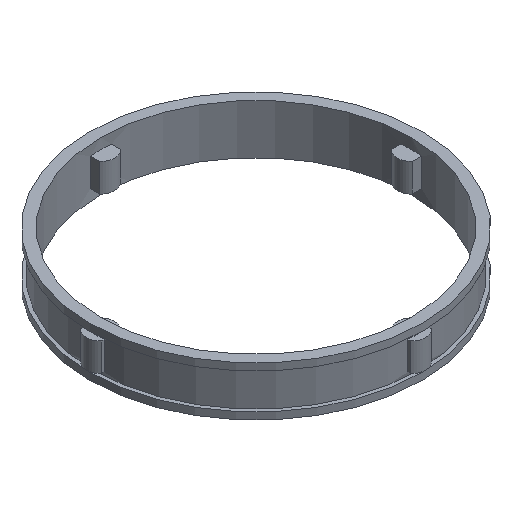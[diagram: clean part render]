
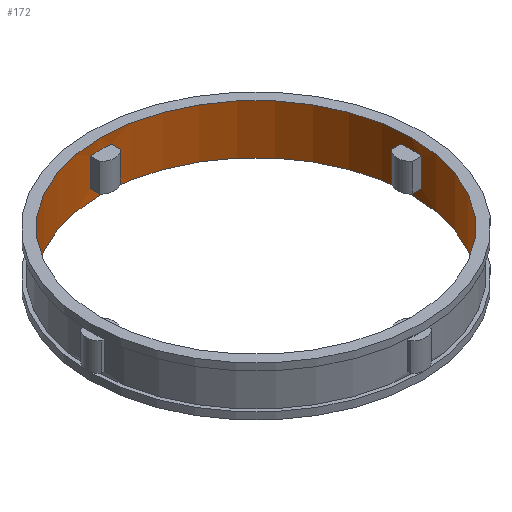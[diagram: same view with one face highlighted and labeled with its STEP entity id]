
A CAD part, isometric view. The second image highlights one B-rep face of the part: STEP entity #172.
In plain terms, the highlighted cylindrical face has radius 22 mm (diameter 44 mm), a full revolution.
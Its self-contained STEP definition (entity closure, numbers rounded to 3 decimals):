
#172=ADVANCED_FACE('',(#365,#366,#367,#368,#369,#370),#220,.F.);
#220=CYLINDRICAL_SURFACE('',#893,22.);
#239=LINE('',#1247,#303);
#240=LINE('',#1251,#304);
#241=LINE('',#1255,#305);
#242=LINE('',#1259,#306);
#243=LINE('',#1263,#307);
#244=LINE('',#1267,#308);
#245=LINE('',#1268,#309);
#246=LINE('',#1273,#310);
#303=VECTOR('',#998,1.);
#304=VECTOR('',#1001,1.);
#305=VECTOR('',#1004,1.);
#306=VECTOR('',#1007,1.);
#307=VECTOR('',#1010,1.);
#308=VECTOR('',#1013,1.);
#309=VECTOR('',#1014,1.);
#310=VECTOR('',#1017,1.);
#365=FACE_BOUND('',#389,.T.);
#366=FACE_BOUND('',#390,.T.);
#367=FACE_BOUND('',#391,.T.);
#368=FACE_BOUND('',#392,.T.);
#369=FACE_BOUND('',#393,.T.);
#370=FACE_BOUND('',#394,.T.);
#389=EDGE_LOOP('',(#465));
#390=EDGE_LOOP('',(#466));
#391=EDGE_LOOP('',(#467,#468,#469,#470));
#392=EDGE_LOOP('',(#471,#472,#473,#474));
#393=EDGE_LOOP('',(#475,#476,#477,#478));
#394=EDGE_LOOP('',(#479,#480,#481,#482));
#465=ORIENTED_EDGE('',*,*,#745,.F.);
#466=ORIENTED_EDGE('',*,*,#746,.T.);
#467=ORIENTED_EDGE('',*,*,#747,.F.);
#468=ORIENTED_EDGE('',*,*,#748,.T.);
#469=ORIENTED_EDGE('',*,*,#749,.T.);
#470=ORIENTED_EDGE('',*,*,#750,.T.);
#471=ORIENTED_EDGE('',*,*,#751,.F.);
#472=ORIENTED_EDGE('',*,*,#752,.T.);
#473=ORIENTED_EDGE('',*,*,#753,.T.);
#474=ORIENTED_EDGE('',*,*,#754,.T.);
#475=ORIENTED_EDGE('',*,*,#755,.F.);
#476=ORIENTED_EDGE('',*,*,#756,.T.);
#477=ORIENTED_EDGE('',*,*,#757,.T.);
#478=ORIENTED_EDGE('',*,*,#758,.T.);
#479=ORIENTED_EDGE('',*,*,#759,.F.);
#480=ORIENTED_EDGE('',*,*,#760,.T.);
#481=ORIENTED_EDGE('',*,*,#761,.F.);
#482=ORIENTED_EDGE('',*,*,#762,.F.);
#673=VERTEX_POINT('',#1241);
#674=VERTEX_POINT('',#1243);
#675=VERTEX_POINT('',#1245);
#676=VERTEX_POINT('',#1246);
#677=VERTEX_POINT('',#1248);
#678=VERTEX_POINT('',#1250);
#679=VERTEX_POINT('',#1253);
#680=VERTEX_POINT('',#1254);
#681=VERTEX_POINT('',#1256);
#682=VERTEX_POINT('',#1258);
#683=VERTEX_POINT('',#1261);
#684=VERTEX_POINT('',#1262);
#685=VERTEX_POINT('',#1264);
#686=VERTEX_POINT('',#1266);
#687=VERTEX_POINT('',#1269);
#688=VERTEX_POINT('',#1270);
#689=VERTEX_POINT('',#1272);
#690=VERTEX_POINT('',#1274);
#745=EDGE_CURVE('',#673,#673,#841,.T.);
#746=EDGE_CURVE('',#674,#674,#842,.T.);
#747=EDGE_CURVE('',#675,#676,#843,.T.);
#748=EDGE_CURVE('',#675,#677,#239,.T.);
#749=EDGE_CURVE('',#677,#678,#844,.T.);
#750=EDGE_CURVE('',#678,#676,#240,.T.);
#751=EDGE_CURVE('',#679,#680,#845,.T.);
#752=EDGE_CURVE('',#679,#681,#241,.T.);
#753=EDGE_CURVE('',#681,#682,#846,.T.);
#754=EDGE_CURVE('',#682,#680,#242,.T.);
#755=EDGE_CURVE('',#683,#684,#847,.T.);
#756=EDGE_CURVE('',#683,#685,#243,.T.);
#757=EDGE_CURVE('',#685,#686,#848,.T.);
#758=EDGE_CURVE('',#686,#684,#244,.T.);
#759=EDGE_CURVE('',#687,#688,#245,.T.);
#760=EDGE_CURVE('',#687,#689,#849,.T.);
#761=EDGE_CURVE('',#690,#689,#246,.T.);
#762=EDGE_CURVE('',#688,#690,#850,.T.);
#841=CIRCLE('',#883,22.);
#842=CIRCLE('',#884,22.);
#843=CIRCLE('',#885,22.);
#844=CIRCLE('',#886,22.);
#845=CIRCLE('',#887,22.);
#846=CIRCLE('',#888,22.);
#847=CIRCLE('',#889,22.);
#848=CIRCLE('',#890,22.);
#849=CIRCLE('',#891,22.);
#850=CIRCLE('',#892,22.);
#883=AXIS2_PLACEMENT_3D('',#1240,#992,#993);
#884=AXIS2_PLACEMENT_3D('',#1242,#994,#995);
#885=AXIS2_PLACEMENT_3D('',#1244,#996,#997);
#886=AXIS2_PLACEMENT_3D('',#1249,#999,#1000);
#887=AXIS2_PLACEMENT_3D('',#1252,#1002,#1003);
#888=AXIS2_PLACEMENT_3D('',#1257,#1005,#1006);
#889=AXIS2_PLACEMENT_3D('',#1260,#1008,#1009);
#890=AXIS2_PLACEMENT_3D('',#1265,#1011,#1012);
#891=AXIS2_PLACEMENT_3D('',#1271,#1015,#1016);
#892=AXIS2_PLACEMENT_3D('',#1275,#1018,#1019);
#893=AXIS2_PLACEMENT_3D('',#1276,#1020,#1021);
#992=DIRECTION('',(0.,0.,1.));
#993=DIRECTION('',(1.,0.,0.));
#994=DIRECTION('',(0.,0.,1.));
#995=DIRECTION('',(1.,0.,0.));
#996=DIRECTION('',(0.,0.,1.));
#997=DIRECTION('',(1.,0.,0.));
#998=DIRECTION('',(0.,0.,-1.));
#999=DIRECTION('',(0.,0.,1.));
#1000=DIRECTION('',(1.,0.,0.));
#1001=DIRECTION('',(0.,0.,1.));
#1002=DIRECTION('',(0.,0.,1.));
#1003=DIRECTION('',(1.,0.,0.));
#1004=DIRECTION('',(0.,0.,-1.));
#1005=DIRECTION('',(0.,0.,1.));
#1006=DIRECTION('',(1.,0.,0.));
#1007=DIRECTION('',(0.,0.,1.));
#1008=DIRECTION('',(0.,0.,1.));
#1009=DIRECTION('',(1.,0.,0.));
#1010=DIRECTION('',(0.,0.,-1.));
#1011=DIRECTION('',(0.,0.,1.));
#1012=DIRECTION('',(1.,0.,0.));
#1013=DIRECTION('',(0.,0.,1.));
#1014=DIRECTION('',(0.,0.,-1.));
#1015=DIRECTION('',(0.,0.,-1.));
#1016=DIRECTION('',(-1.,0.,0.));
#1017=DIRECTION('',(0.,0.,1.));
#1018=DIRECTION('',(0.,0.,-1.));
#1019=DIRECTION('',(-1.,0.,0.));
#1020=DIRECTION('',(0.,0.,-1.));
#1021=DIRECTION('',(-1.,0.,0.));
#1240=CARTESIAN_POINT('',(0.,0.,0.));
#1241=CARTESIAN_POINT('',(22.,0.,0.));
#1242=CARTESIAN_POINT('',(0.,0.,7.));
#1243=CARTESIAN_POINT('',(22.,0.,7.));
#1244=CARTESIAN_POINT('',(0.,0.,5.5));
#1245=CARTESIAN_POINT('',(21.951,-1.471,5.5));
#1246=CARTESIAN_POINT('',(21.951,1.471,5.5));
#1247=CARTESIAN_POINT('',(21.951,-1.471,7.));
#1248=CARTESIAN_POINT('',(21.951,-1.471,1.5));
#1249=CARTESIAN_POINT('',(0.,0.,1.5));
#1250=CARTESIAN_POINT('',(21.951,1.471,1.5));
#1251=CARTESIAN_POINT('',(21.951,1.471,7.));
#1252=CARTESIAN_POINT('',(0.,0.,5.5));
#1253=CARTESIAN_POINT('',(1.471,21.951,5.5));
#1254=CARTESIAN_POINT('',(-1.471,21.951,5.5));
#1255=CARTESIAN_POINT('',(1.471,21.951,7.));
#1256=CARTESIAN_POINT('',(1.471,21.951,1.5));
#1257=CARTESIAN_POINT('',(0.,0.,1.5));
#1258=CARTESIAN_POINT('',(-1.471,21.951,1.5));
#1259=CARTESIAN_POINT('',(-1.471,21.951,7.));
#1260=CARTESIAN_POINT('',(0.,0.,5.5));
#1261=CARTESIAN_POINT('',(-21.951,1.471,5.5));
#1262=CARTESIAN_POINT('',(-21.951,-1.471,5.5));
#1263=CARTESIAN_POINT('',(-21.951,1.471,7.));
#1264=CARTESIAN_POINT('',(-21.951,1.471,1.5));
#1265=CARTESIAN_POINT('',(0.,0.,1.5));
#1266=CARTESIAN_POINT('',(-21.951,-1.471,1.5));
#1267=CARTESIAN_POINT('',(-21.951,-1.471,7.));
#1268=CARTESIAN_POINT('',(1.471,-21.951,7.));
#1269=CARTESIAN_POINT('',(1.471,-21.951,5.5));
#1270=CARTESIAN_POINT('',(1.471,-21.951,1.5));
#1271=CARTESIAN_POINT('',(0.,0.,5.5));
#1272=CARTESIAN_POINT('',(-1.471,-21.951,5.5));
#1273=CARTESIAN_POINT('',(-1.471,-21.951,7.));
#1274=CARTESIAN_POINT('',(-1.471,-21.951,1.5));
#1275=CARTESIAN_POINT('',(0.,0.,1.5));
#1276=CARTESIAN_POINT('',(0.,0.,7.));
